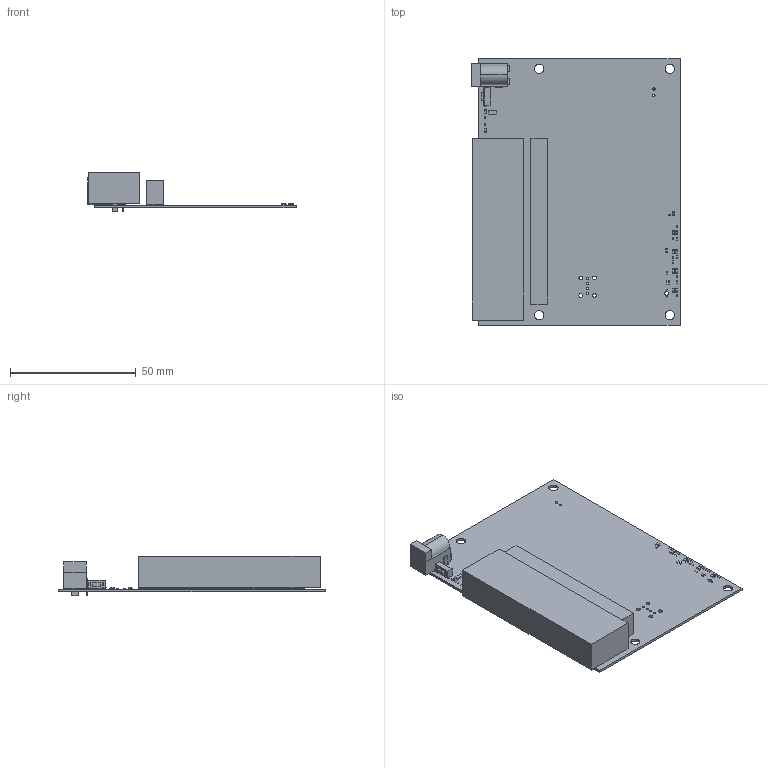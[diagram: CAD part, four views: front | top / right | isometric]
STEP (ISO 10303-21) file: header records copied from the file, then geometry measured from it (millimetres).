
FILE_DESCRIPTION (( 'STEP AP214' ), '1' );
FILE_NAME ('RB750_hex_lite.STEP', '2017-01-17T09:32:39', ( '' ), ( '' ), 'SwSTEP 2.0', 'SolidWorks 2016', '' );
FILE_SCHEMA (( 'AUTOMOTIVE_DESIGN' ));
Length unit declared in the file: millimetre
Products named in the file (1): RB750_hex_lite
Bounding box: 82.7 x 106 x 15.54 mm (x, y, z)
Surface area: 25555.4 mm2 (no closed solid volume)
Topology: 0 solids, 57 shells, 255 faces, 1144 edges, 946 vertices
Faces by surface type: plane 227, cylinder 28
Entity records: 15054 total; most frequent: CARTESIAN_POINT 2346, DIRECTION 2150, ORIENTED_EDGE 1528, EDGE_CURVE 1144, VERTEX_POINT 946, AXIS2_PLACEMENT_3D 750, LINE 650, VECTOR 650
